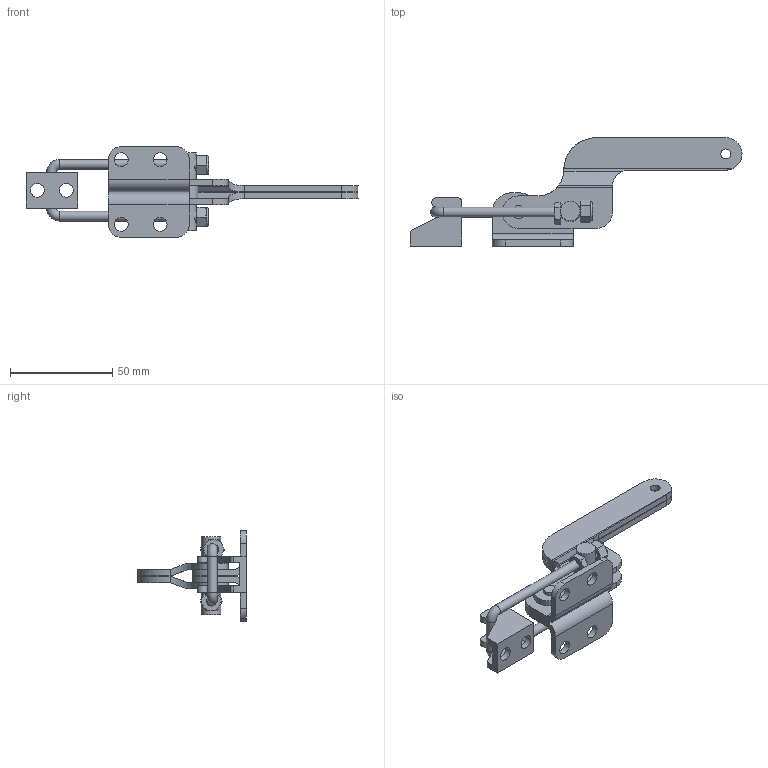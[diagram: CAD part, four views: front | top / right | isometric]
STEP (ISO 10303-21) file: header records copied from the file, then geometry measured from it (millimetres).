
FILE_DESCRIPTION((' '),'2;1');
FILE_NAME('C:\Users\Nick\Desktop\PCU-Sereis\PCU-700\3D\PCU700.stp','2015-07-24T11:41:18',(' '),(' '),' ','ACIS',' ');
FILE_SCHEMA(('CONFIG_CONTROL_DESIGN'));
Length unit declared in the file: inch
Products named in the file (13): C:\Users\Nick\Desktop\PCU-Sereis\PCU-700\3D\PCU700.stp; Body1; Body2; Body3; Body1 (1); Body2 (1); Body31; Body4; Body4 (1); Body5; Body6; Body7; Body8
Assembly tree (12 placements, depth 3):
  C:\Users\Nick\Desktop\PCU-Sereis\PCU-700\3D\PCU700.stp
    Body1
    Body2
    Body3
      Body1 (1)
      Body2 (1)
      Body31
      Body4
    Body4 (1)
    Body5
    Body6
    Body7
    Body8
Bounding box: 162.71 x 53.17 x 44.45 mm (x, y, z)
Volume: 32609.9 mm3; surface area: 26973.3 mm2
Topology: 11 solids, 11 shells, 293 faces, 767 edges, 499 vertices
Faces by surface type: cylinder 101, plane 96, cone 86, torus 6, bspline 4
Full cylindrical faces by diameter (mm): 4.178 x10, 4.775 x3, 4.826 x10, 4.877 x2, 5.159 x2, 5.816 x2, 6.426 x4, 6.509 x1, 6.756 x6, 9.525 x2, 9.576 x2, 11.125 x1
Entity records: 12849 total; most frequent: CARTESIAN_POINT 4434, ORIENTED_EDGE 1382, DIRECTION 1324, EDGE_CURVE 691, AXIS2_PLACEMENT_3D 568, VERTEX_POINT 496, EDGE_LOOP 411, FACE_OUTER_BOUND 293
